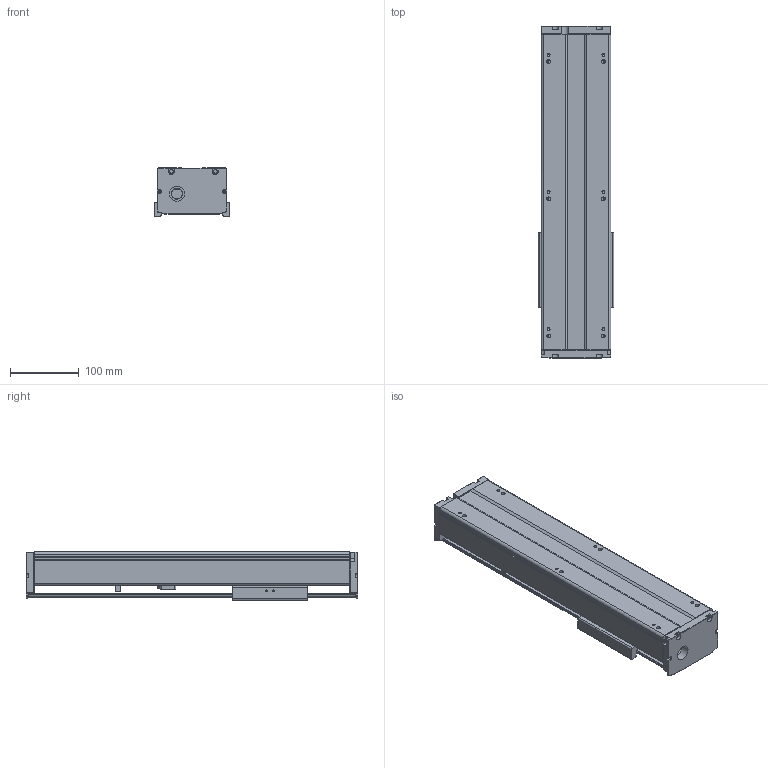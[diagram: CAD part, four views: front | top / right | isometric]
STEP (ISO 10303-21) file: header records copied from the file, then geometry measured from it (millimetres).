
FILE_DESCRIPTION(/* description */ (''),/* implementation_level */ '2;1');
FILE_NAME(/* name */ 'TKA100-100A1FI_asm1.stp',/* time_stamp */ '2017-02-21T08:16:39+08:00',/* author */ (''),/* organization */ (''),/* preprocessor_version */ 'ST-DEVELOPER v15',/* originating_system */ 'SIEMENS PLM Software NX 8.5',/* authorisation */ '');
FILE_SCHEMA (('AUTOMOTIVE_DESIGN { 1 0 10303 214 3 1 1 1 }'));
Length unit declared in the file: millimetre
Products named in the file (3): 200-02; 200-01; TKA100-100A1FI_asm1_stp
Assembly tree (2 placements, depth 2):
  TKA100-100A1FI_asm1_stp
    200-01
    200-02
Bounding box: 110 x 484 x 71 mm (x, y, z)
Volume: 1236746.6 mm3; surface area: 387517 mm2
Topology: 2 solids, 9 shells, 829 faces, 2130 edges, 1347 vertices
Faces by surface type: plane 353, cylinder 273, cone 143, torus 34, bspline 26
Full cylindrical faces by diameter (mm): 2.5 x4, 2.6 x8, 3.3 x8, 3.4 x4, 3.8 x4, 4.2 x15, 4.3 x4, 4.5 x4, 5 x1, 5.5 x18, 6.6 x4, 8 x5, 9 x4, 10 x6, 11 x4, 12 x7, 15.3 x1, 16 x1, 22 x1, 24 x1, 28 x5, 30 x1
Entity records: 29684 total; most frequent: CARTESIAN_POINT 10360, DIRECTION 4012, ORIENTED_EDGE 3778, EDGE_CURVE 1889, AXIS2_PLACEMENT_3D 1538, VERTEX_POINT 1284, EDGE_LOOP 1087, LINE 936
